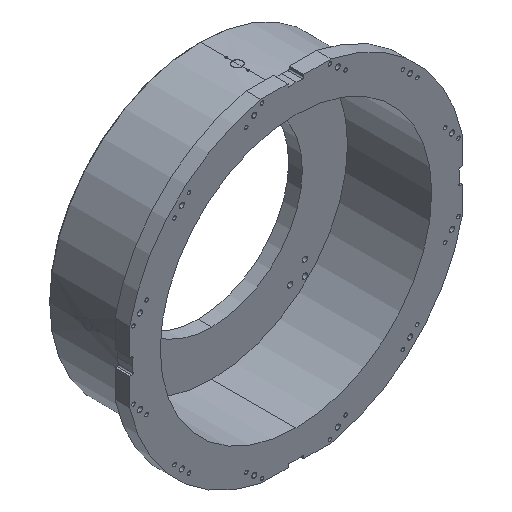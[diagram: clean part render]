
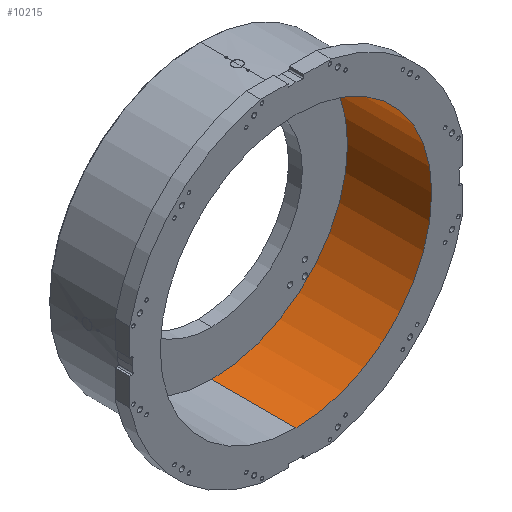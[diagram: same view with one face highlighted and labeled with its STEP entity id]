
A CAD part, isometric view. The second image highlights one B-rep face of the part: STEP entity #10215.
In plain terms, the highlighted cylindrical face has radius 555 mm (diameter 1110 mm), a partial arc.
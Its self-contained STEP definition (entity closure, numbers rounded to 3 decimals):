
#417 = VECTOR ( 'NONE', #1704, 1000. ) ;
#451 = CYLINDRICAL_SURFACE ( 'NONE', #7290, 555. ) ;
#548 = CARTESIAN_POINT ( 'NONE',  ( 0., 344., 555. ) ) ;
#793 = DIRECTION ( 'NONE',  ( 0., 0., 1. ) ) ;
#1349 = EDGE_CURVE ( 'NONE', #6656, #4226, #1749, .T. ) ;
#1686 = DIRECTION ( 'NONE',  ( 0., 1., 0. ) ) ;
#1704 = DIRECTION ( 'NONE',  ( 0., 1., 0. ) ) ;
#1749 = CIRCLE ( 'NONE', #9332, 555. ) ;
#2230 = DIRECTION ( 'NONE',  ( 0., 1., 0. ) ) ;
#2307 = CARTESIAN_POINT ( 'NONE',  ( 0., 0., 0. ) ) ;
#2421 = CARTESIAN_POINT ( 'NONE',  ( 0., 0., -555. ) ) ;
#2681 = EDGE_LOOP ( 'NONE', ( #10622, #10180, #9161, #11693 ) ) ;
#3036 = EDGE_CURVE ( 'NONE', #3945, #9420, #10832, .T. ) ;
#3121 = CARTESIAN_POINT ( 'NONE',  ( 0., 0., -555. ) ) ;
#3191 = CARTESIAN_POINT ( 'NONE',  ( 0., 344., 0. ) ) ;
#3255 = DIRECTION ( 'NONE',  ( 0., 0., 1. ) ) ;
#3945 = VERTEX_POINT ( 'NONE', #4509 ) ;
#4028 = DIRECTION ( 'NONE',  ( 0., 0., 1. ) ) ;
#4226 = VERTEX_POINT ( 'NONE', #9638 ) ;
#4509 = CARTESIAN_POINT ( 'NONE',  ( 0., 0., 555. ) ) ;
#4987 = FACE_OUTER_BOUND ( 'NONE', #2681, .T. ) ;
#5497 = VECTOR ( 'NONE', #2230, 1000. ) ;
#6012 = DIRECTION ( 'NONE',  ( 0., 1., 0. ) ) ;
#6237 = CARTESIAN_POINT ( 'NONE',  ( 0., 0., 555. ) ) ;
#6656 = VERTEX_POINT ( 'NONE', #548 ) ;
#7290 = AXIS2_PLACEMENT_3D ( 'NONE', #2307, #6012, #3255 ) ;
#7647 = LINE ( 'NONE', #3121, #5497 ) ;
#7818 = AXIS2_PLACEMENT_3D ( 'NONE', #9820, #1686, #793 ) ;
#9161 = ORIENTED_EDGE ( 'NONE', *, *, #10349, .T. ) ;
#9332 = AXIS2_PLACEMENT_3D ( 'NONE', #3191, #11154, #4028 ) ;
#9420 = VERTEX_POINT ( 'NONE', #2421 ) ;
#9638 = CARTESIAN_POINT ( 'NONE',  ( 0., 344., -555. ) ) ;
#9788 = EDGE_CURVE ( 'NONE', #9420, #4226, #7647, .T. ) ;
#9820 = CARTESIAN_POINT ( 'NONE',  ( 0., 0., 0. ) ) ;
#10180 = ORIENTED_EDGE ( 'NONE', *, *, #3036, .F. ) ;
#10215 = ADVANCED_FACE ( 'NONE', ( #4987 ), #451, .F. ) ;
#10349 = EDGE_CURVE ( 'NONE', #3945, #6656, #10729, .T. ) ;
#10622 = ORIENTED_EDGE ( 'NONE', *, *, #9788, .F. ) ;
#10729 = LINE ( 'NONE', #6237, #417 ) ;
#10832 = CIRCLE ( 'NONE', #7818, 555. ) ;
#11154 = DIRECTION ( 'NONE',  ( 0., 1., 0. ) ) ;
#11693 = ORIENTED_EDGE ( 'NONE', *, *, #1349, .T. ) ;
